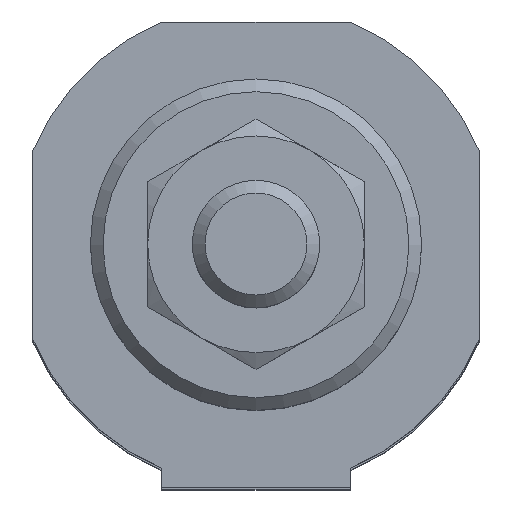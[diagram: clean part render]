
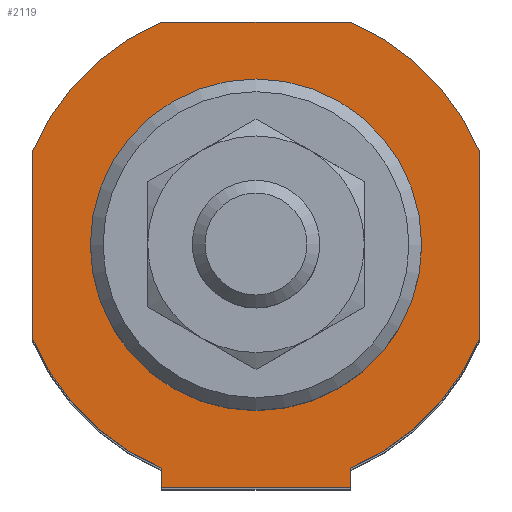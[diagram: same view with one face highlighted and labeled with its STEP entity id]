
A CAD part, top view. The second image highlights one B-rep face of the part: STEP entity #2119.
In plain terms, the highlighted planar face has unit normal (0, 0, 1).
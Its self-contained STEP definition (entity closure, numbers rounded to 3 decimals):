
#1123=CARTESIAN_POINT('',(7.399,-19.0,148.0));
#1124=VERTEX_POINT('',#1123);
#1125=CARTESIAN_POINT('',(-7.399,-19.0,148.));
#1126=VERTEX_POINT('',#1125);
#1127=CARTESIAN_POINT('',(7.399,-19.0,148.0));
#1128=DIRECTION('',(-1.0,0.0,0.0));
#1129=VECTOR('',#1128,14.799);
#1130=LINE('',#1127,#1129);
#1131=EDGE_CURVE('',#1124,#1126,#1130,.T.);
#1545=CARTESIAN_POINT('',(-7.399,-17.5,148.));
#1546=VERTEX_POINT('',#1545);
#1560=CARTESIAN_POINT('',(-7.399,-17.5,148.));
#1561=DIRECTION('',(0.0,-1.0,0.0));
#1562=VECTOR('',#1561,1.5);
#1563=LINE('',#1560,#1562);
#1564=EDGE_CURVE('',#1546,#1126,#1563,.T.);
#1576=CARTESIAN_POINT('',(7.399,-17.5,148.0));
#1577=VERTEX_POINT('',#1576);
#1584=CARTESIAN_POINT('',(7.399,-17.5,148.0));
#1585=DIRECTION('',(0.0,-1.0,0.0));
#1586=VECTOR('',#1585,1.5);
#1587=LINE('',#1584,#1586);
#1588=EDGE_CURVE('',#1577,#1124,#1587,.T.);
#1801=CARTESIAN_POINT('',(13.0,0.,148.));
#1802=VERTEX_POINT('',#1801);
#1803=CARTESIAN_POINT('',(0.,0.,148.));
#1804=DIRECTION('',(0.0,0.0,-1.0));
#1805=DIRECTION('',(-1.0,0.0,0.0));
#1806=AXIS2_PLACEMENT_3D('',#1803,#1804,#1805);
#1807=CIRCLE('',#1806,13.0);
#1808=EDGE_CURVE('',#1802,#1802,#1807,.T.);
#2013=CARTESIAN_POINT('',(-17.5,-7.399,148.));
#2014=VERTEX_POINT('',#2013);
#2015=CARTESIAN_POINT('',(-17.5,7.399,148.));
#2016=VERTEX_POINT('',#2015);
#2017=CARTESIAN_POINT('',(-17.5,-7.399,148.));
#2018=DIRECTION('',(0.0,1.0,0.0));
#2019=VECTOR('',#2018,14.799);
#2020=LINE('',#2017,#2019);
#2021=EDGE_CURVE('',#2014,#2016,#2020,.T.);
#2045=CARTESIAN_POINT('',(-7.399,17.5,148.));
#2046=VERTEX_POINT('',#2045);
#2047=CARTESIAN_POINT('',(0.0,0.0,148.0));
#2048=DIRECTION('',(0.0,0.0,-1.0));
#2049=DIRECTION('',(-0.389,0.921,0.0));
#2050=AXIS2_PLACEMENT_3D('',#2047,#2048,#2049);
#2051=CIRCLE('',#2050,19.0);
#2052=EDGE_CURVE('',#2016,#2046,#2051,.T.);
#2065=CARTESIAN_POINT('',(-11.374,11.374,148.));
#2066=DIRECTION('',(0.0,0.0,1.0));
#2067=DIRECTION('',(1.0,0.0,0.0));
#2068=AXIS2_PLACEMENT_3D('',#2065,#2066,#2067);
#2069=PLANE('',#2068);
#2070=CARTESIAN_POINT('',(7.399,17.5,148.));
#2071=VERTEX_POINT('',#2070);
#2072=CARTESIAN_POINT('',(-7.399,17.5,148.));
#2073=DIRECTION('',(1.0,0.0,0.0));
#2074=VECTOR('',#2073,14.799);
#2075=LINE('',#2072,#2074);
#2076=EDGE_CURVE('',#2046,#2071,#2075,.T.);
#2077=ORIENTED_EDGE('',*,*,#2076,.F.);
#2078=ORIENTED_EDGE('',*,*,#2052,.F.);
#2079=ORIENTED_EDGE('',*,*,#2021,.F.);
#2080=CARTESIAN_POINT('',(0.0,0.0,148.0));
#2081=DIRECTION('',(0.0,0.0,-1.0));
#2082=DIRECTION('',(-0.921,-0.389,0.0));
#2083=AXIS2_PLACEMENT_3D('',#2080,#2081,#2082);
#2084=CIRCLE('',#2083,19.0);
#2085=EDGE_CURVE('',#1546,#2014,#2084,.T.);
#2086=ORIENTED_EDGE('',*,*,#2085,.F.);
#2087=ORIENTED_EDGE('',*,*,#1564,.T.);
#2088=ORIENTED_EDGE('',*,*,#1131,.F.);
#2089=ORIENTED_EDGE('',*,*,#1588,.F.);
#2090=CARTESIAN_POINT('',(17.5,-7.399,148.0));
#2091=VERTEX_POINT('',#2090);
#2092=CARTESIAN_POINT('',(0.0,0.0,148.0));
#2093=DIRECTION('',(0.0,0.0,-1.0));
#2094=DIRECTION('',(0.389,-0.921,0.0));
#2095=AXIS2_PLACEMENT_3D('',#2092,#2093,#2094);
#2096=CIRCLE('',#2095,19.0);
#2097=EDGE_CURVE('',#2091,#1577,#2096,.T.);
#2098=ORIENTED_EDGE('',*,*,#2097,.F.);
#2099=CARTESIAN_POINT('',(17.5,7.399,148.));
#2100=VERTEX_POINT('',#2099);
#2101=CARTESIAN_POINT('',(17.5,7.399,148.));
#2102=DIRECTION('',(0.0,-1.0,0.0));
#2103=VECTOR('',#2102,14.799);
#2104=LINE('',#2101,#2103);
#2105=EDGE_CURVE('',#2100,#2091,#2104,.T.);
#2106=ORIENTED_EDGE('',*,*,#2105,.F.);
#2107=CARTESIAN_POINT('',(0.0,0.0,148.0));
#2108=DIRECTION('',(0.0,0.0,-1.0));
#2109=DIRECTION('',(0.921,0.389,0.0));
#2110=AXIS2_PLACEMENT_3D('',#2107,#2108,#2109);
#2111=CIRCLE('',#2110,19.0);
#2112=EDGE_CURVE('',#2071,#2100,#2111,.T.);
#2113=ORIENTED_EDGE('',*,*,#2112,.F.);
#2114=EDGE_LOOP('',(#2077,#2078,#2079,#2086,#2087,#2088,#2089,#2098,#2106,#2113));
#2115=FACE_OUTER_BOUND('',#2114,.T.);
#2116=ORIENTED_EDGE('',*,*,#1808,.T.);
#2117=EDGE_LOOP('',(#2116));
#2118=FACE_BOUND('',#2117,.T.);
#2119=ADVANCED_FACE('',(#2115,#2118),#2069,.T.);
